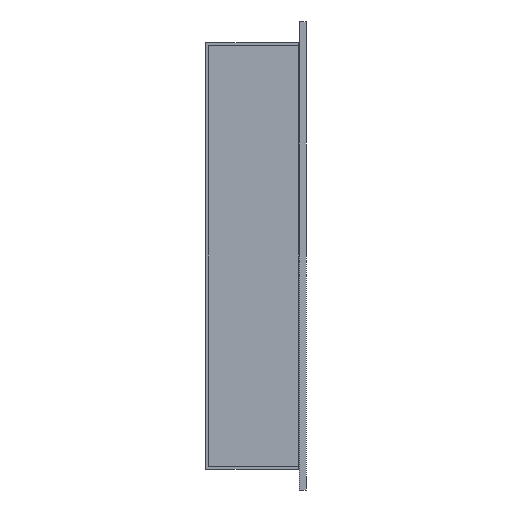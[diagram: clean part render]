
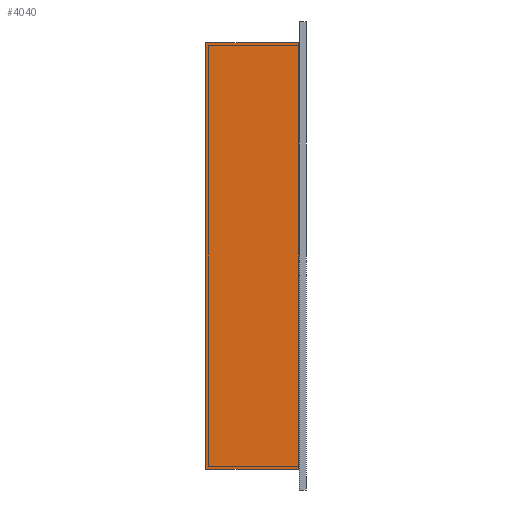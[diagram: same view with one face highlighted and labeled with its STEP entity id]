
A CAD part, left-side view. The second image highlights one B-rep face of the part: STEP entity #4040.
In plain terms, the highlighted planar face has unit normal (-1, 0, 0).
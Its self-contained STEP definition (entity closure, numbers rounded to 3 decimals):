
#58 = DIRECTION ( 'NONE',  ( 0., 1., 0. ) ) ;
#802 = VECTOR ( 'NONE', #3591, 1000. ) ;
#870 = CARTESIAN_POINT ( 'NONE',  ( -110.5, 26.8, -61. ) ) ;
#978 = LINE ( 'NONE', #4660, #802 ) ;
#1234 = LINE ( 'NONE', #870, #3780 ) ;
#1346 = AXIS2_PLACEMENT_3D ( 'NONE', #2576, #3639, #58 ) ;
#1733 = EDGE_LOOP ( 'NONE', ( #4438, #3343, #4288, #4546 ) ) ;
#1786 = EDGE_CURVE ( 'NONE', #2556, #3459, #1234, .T. ) ;
#1795 = VERTEX_POINT ( 'NONE', #3111 ) ;
#1962 = DIRECTION ( 'NONE',  ( 0., 0., 1. ) ) ;
#2166 = FACE_OUTER_BOUND ( 'NONE', #1733, .T. ) ;
#2411 = LINE ( 'NONE', #4228, #3633 ) ;
#2498 = CARTESIAN_POINT ( 'NONE',  ( -110.5, 26.8, -61. ) ) ;
#2556 = VERTEX_POINT ( 'NONE', #2498 ) ;
#2576 = CARTESIAN_POINT ( 'NONE',  ( -110.5, 26.8, -61. ) ) ;
#2749 = DIRECTION ( 'NONE',  ( 0., -1., 0. ) ) ;
#2994 = EDGE_CURVE ( 'NONE', #2556, #4297, #2411, .T. ) ;
#3111 = CARTESIAN_POINT ( 'NONE',  ( -110.5, 0.2, 61. ) ) ;
#3113 = DIRECTION ( 'NONE',  ( 0., -1., 0. ) ) ;
#3120 = EDGE_CURVE ( 'NONE', #4297, #1795, #978, .T. ) ;
#3130 = LINE ( 'NONE', #3813, #3824 ) ;
#3186 = CARTESIAN_POINT ( 'NONE',  ( -110.5, 0.2, -61. ) ) ;
#3271 = PLANE ( 'NONE',  #1346 ) ;
#3343 = ORIENTED_EDGE ( 'NONE', *, *, #3782, .F. ) ;
#3459 = VERTEX_POINT ( 'NONE', #4009 ) ;
#3591 = DIRECTION ( 'NONE',  ( 0., 0., 1. ) ) ;
#3633 = VECTOR ( 'NONE', #3113, 1000. ) ;
#3639 = DIRECTION ( 'NONE',  ( 1., 0., 0. ) ) ;
#3780 = VECTOR ( 'NONE', #1962, 1000. ) ;
#3782 = EDGE_CURVE ( 'NONE', #3459, #1795, #3130, .T. ) ;
#3813 = CARTESIAN_POINT ( 'NONE',  ( -110.5, 26.8, 61. ) ) ;
#3824 = VECTOR ( 'NONE', #2749, 1000. ) ;
#4009 = CARTESIAN_POINT ( 'NONE',  ( -110.5, 26.8, 61. ) ) ;
#4040 = ADVANCED_FACE ( 'NONE', ( #2166 ), #3271, .F. ) ;
#4228 = CARTESIAN_POINT ( 'NONE',  ( -110.5, 26.8, -61. ) ) ;
#4288 = ORIENTED_EDGE ( 'NONE', *, *, #1786, .F. ) ;
#4297 = VERTEX_POINT ( 'NONE', #3186 ) ;
#4438 = ORIENTED_EDGE ( 'NONE', *, *, #3120, .T. ) ;
#4546 = ORIENTED_EDGE ( 'NONE', *, *, #2994, .T. ) ;
#4660 = CARTESIAN_POINT ( 'NONE',  ( -110.5, 0.2, -61. ) ) ;
